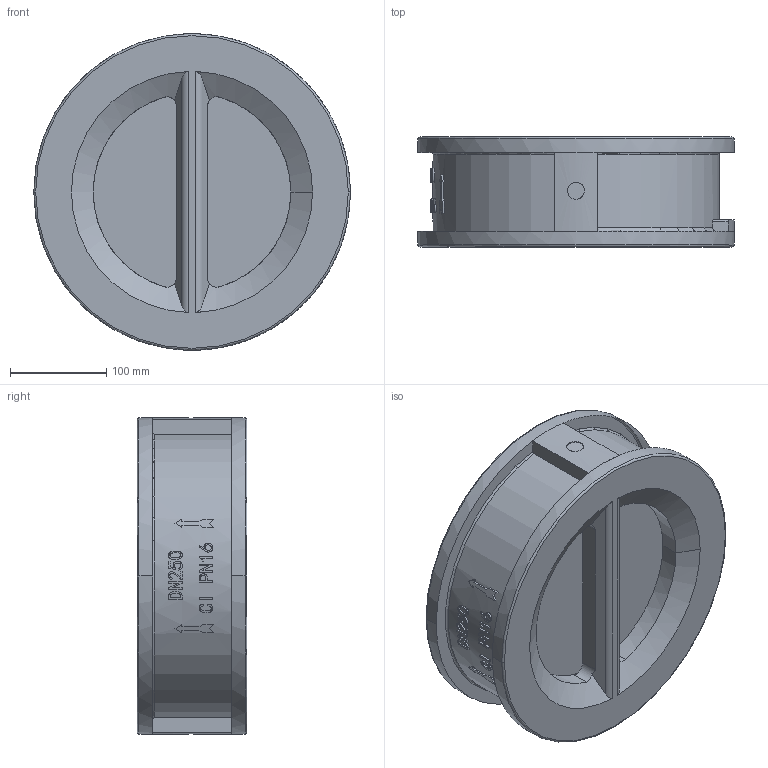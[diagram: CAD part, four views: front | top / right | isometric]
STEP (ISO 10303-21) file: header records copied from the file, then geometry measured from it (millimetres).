
FILE_DESCRIPTION (( 'STEP AP214' ), '1' );
FILE_NAME ('250砦隙.STEP', '2024-06-29T12:27:59', ( '' ), ( '' ), 'SwSTEP 2.0', 'SolidWorks 2021', '' );
FILE_SCHEMA (( 'AUTOMOTIVE_DESIGN' ));
Length unit declared in the file: millimetre
Products named in the file (1): 250砦隙
Bounding box: 328 x 114 x 328 mm (x, y, z)
Volume: 3687183.1 mm3; surface area: 438182.9 mm2
Topology: 1 solids, 1 shells, 219 faces, 572 edges, 378 vertices
Faces by surface type: plane 121, cylinder 54, bspline 33, torus 8, cone 3
Entity records: 11769 total; most frequent: CARTESIAN_POINT 6555, ORIENTED_EDGE 1144, DIRECTION 962, EDGE_CURVE 572, VERTEX_POINT 378, AXIS2_PLACEMENT_3D 348, LINE 266, VECTOR 266
